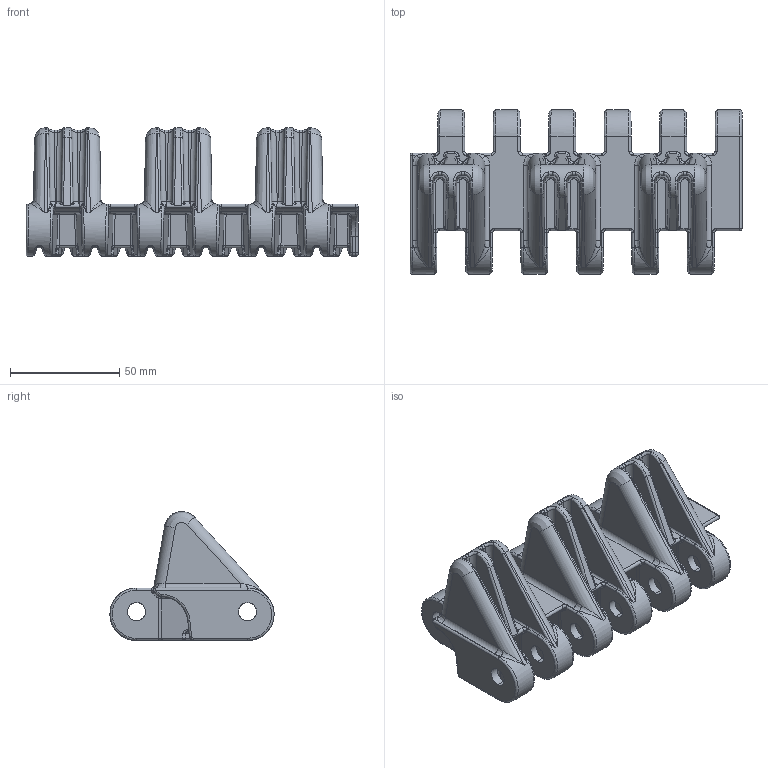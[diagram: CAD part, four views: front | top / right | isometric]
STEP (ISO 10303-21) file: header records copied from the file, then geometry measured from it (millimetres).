
FILE_DESCRIPTION((''),'2;1');
FILE_NAME('P1393','2013-11-14T',('jas'),(''),'PRO/ENGINEER BY PARAMETRIC TECHNOLOGY CORPORATION, 2013230','PRO/ENGINEER BY PARAMETRIC TECHNOLOGY CORPORATION, 2013230','');
FILE_SCHEMA(('AUTOMOTIVE_DESIGN { 1 0 10303 214 1 1 1 1 }'));
Products named in the file (1): P1393
Bounding box: 152 x 75.15 x 58.99 mm (x, y, z)
Volume: 154695.5 mm3; surface area: 69551.4 mm2
Topology: 1 solids, 1 shells, 1940 faces, 4586 edges, 2624 vertices
Faces by surface type: cylinder 784, bspline 781, plane 308, sphere 58, torus 9
Entity records: 126150 total; most frequent: CARTESIAN_POINT 87429, ORIENTED_EDGE 9172, DIRECTION 6422, EDGE_CURVE 4586, VERTEX_POINT 2624, AXIS2_PLACEMENT_3D 2444, EDGE_LOOP 1964, FACE_OUTER_BOUND 1940
